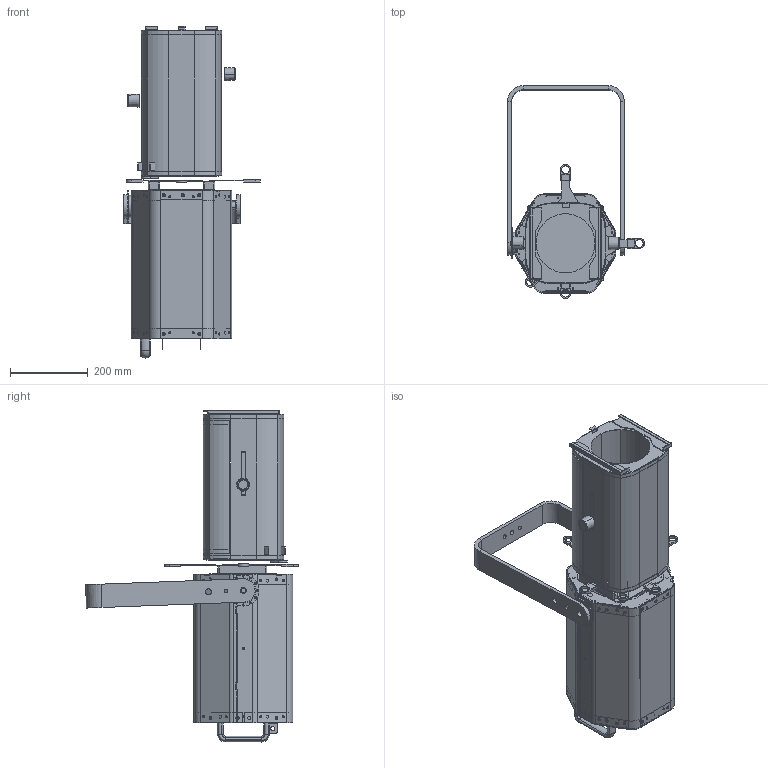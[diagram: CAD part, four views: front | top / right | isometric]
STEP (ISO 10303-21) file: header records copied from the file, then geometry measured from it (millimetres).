
FILE_DESCRIPTION (( 'STEP AP214' ), '1' );
FILE_NAME ('674SX.STEP', '2025-03-19T10:30:51', ( '' ), ( '' ), 'SwSTEP 2.0', 'SolidWorks 2023', '' );
FILE_SCHEMA (( 'AUTOMOTIVE_DESIGN' ));
Length unit declared in the file: millimetre
Products named in the file (45): CAD client_204578 Corps de zoom 614; CAD client_304248 Plaque de fenetre lanterne; Capot BAS; CAD client_305499 Entretoise de fenetre SX_Coté Gauche ; CAD client_310811 Presse couteaux 600SX; CAD client_304204 Flan AR zoom 208x208_Rep 00; Structure; CAD client_404294 Couteaux SX_Rep 00; CAD client_304297 Glissière avant zoom coté gauche_Coté gauche; CAD client_304254 Blocage couteaux; CAD client_301671 Flan AV zoom 208x208_Rep 02; CAD client_#_311099 Carosserie zoom 614SX; Niche; CAD client_305499 Entretoise de fenetre SX_Coté droit; CAD client_310812 Fenetre image de 600SX; CAD client_304297 Glissière avant zoom coté droit_Coté droit; CAD client_300502 Capot de zoom 208x208_Rep 10; CAD client_410859 Blocage couteaux 600SX; Rondelle graduee; CAD client_407740 surmoulage sur insert bouton moleté bi Ø_Partie surmoulée pour insert bi Ø; CAD client_#_311098 Corp de zoom souder; 674SX; Fourche; IHM; CAD client_304253 Plaque renfort AR zoom 208x208_Rep 00; CAD client_404339 Patte d''appui blocage couteaux_Rep 00; Lanterne 67x; CAD client_304298 Poussoir verrouillage porte filtre; CAD client_304249 Plaque de fenetre zoom; CAD client_#_311095 Capot zoom 614SX; CAD client_410813 Fenetre et couteaux de 600SX; CAD client_300503 Raccord capot; CAD client_401016 Poignée de couteaux_Bleue; CAD client_407740 surmoulage bouton moleté bi Ø_Pour moulage; CAD client_407739 bouchon siglé RJ Ø 29 bouton moleté bi Ø_RJ en creux Ø 29; Capot HAUT; CAD client_401016 Poignée de couteaux_Grise; CAD client_310858 Fenetre image rotative; CAD client_407741 Bouton moleté bi Ø_Avec pastille Ø 29 pour Ø 6.2; CAD client_#_311100 Zoom 614 SX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
Assembly tree (49 placements, depth 7):
  674SX
    Lanterne 67x
      Structure
      IHM
      Niche
      Poignée
      Capot HAUT
      Capot BAS
      Rondelle graduee
      Fourche
      Canon de fourche
    CAD client_#_311100 Zoom 614 SX
      CAD client_#_311099 Carosserie zoom 614SX
        CAD client_#_311098 Corp de zoom souder
          CAD client_204578 Corps de zoom 614
          CAD client_300503 Raccord capot  x2
          CAD client_301671 Flan AV zoom 208x208_Rep 02
          CAD client_304204 Flan AR zoom 208x208_Rep 00
          CAD client_304253 Plaque renfort AR zoom 208x208_Rep 00
          CAD client_404339 Patte d''appui blocage couteaux_Rep 00
        CAD client_#_311095 Capot zoom 614SX
          CAD client_300502 Capot de zoom 208x208_Rep 10
      CAD client_304297 Glissière avant zoom coté droit_Coté droit
      CAD client_304297 Glissière avant zoom coté gauche_Coté gauche
      CAD client_304298 Poussoir verrouillage porte filtre
      CAD client_407741 Bouton moleté bi Ø_Avec pastille Ø 29 pour Ø 6.2  x2
        CAD client_407740 surmoulage bouton moleté bi Ø_Pour moulage
          CAD client_407740 surmoulage sur insert bouton moleté bi Ø_Partie surmoulée pour insert bi Ø
        CAD client_407739 bouchon siglé RJ Ø 29 bouton moleté bi Ø_RJ en creux Ø 29
    CAD client_310858 Fenetre image rotative
      CAD client_410813 Fenetre et couteaux de 600SX
        CAD client_310812 Fenetre image de 600SX
          CAD client_310811 Presse couteaux 600SX
            CAD client_304249 Plaque de fenetre zoom
              CAD client_304249 Plaque de fenetre zoom
          CAD client_304248 Plaque de fenetre lanterne
            CAD client_304248 Plaque de fenetre lanterne
          CAD client_305499 Entretoise de fenetre SX_Coté Gauche 
          CAD client_305499 Entretoise de fenetre SX_Coté droit
        CAD client_408687 Montage Couteau_Rep 01  x4
          CAD client_404294 Couteaux SX_Rep 00
          CAD client_401016 Poignée de couteaux_Grise
      CAD client_410859 Blocage couteaux 600SX
        CAD client_304254 Blocage couteaux
        CAD client_401016 Poignée de couteaux_Bleue
Bounding box: 352 x 547.34 x 853.8 mm (x, y, z)
Volume: 2289484.4 mm3; surface area: 2582529.5 mm2
Topology: 65 solids, 65 shells, 3543 faces, 8626 edges, 5384 vertices
Faces by surface type: plane 1663, cylinder 1381, bspline 224, cone 143, torus 132
Entity records: 118935 total; most frequent: CARTESIAN_POINT 34177, DIRECTION 17622, ORIENTED_EDGE 16872, EDGE_CURVE 8436, AXIS2_PLACEMENT_3D 6398, VERTEX_POINT 5268, VECTOR 4826, LINE 4826
